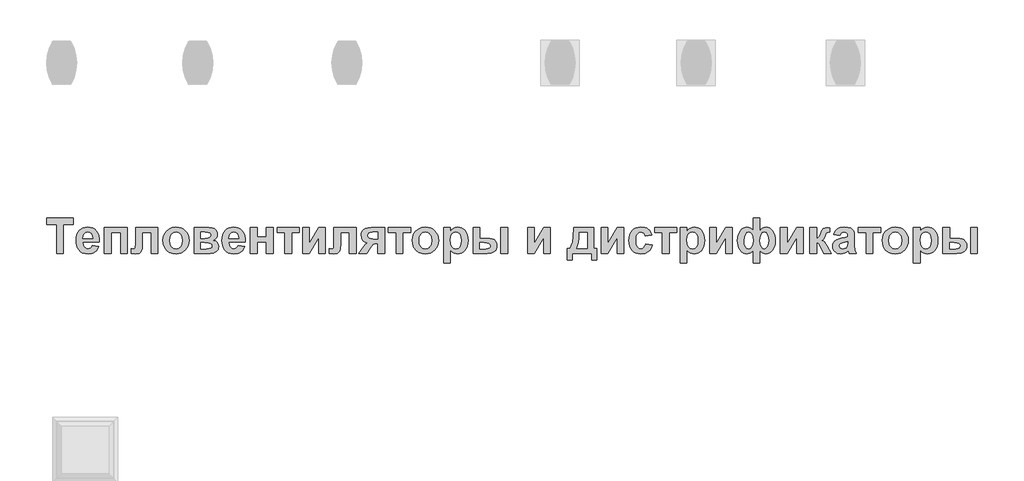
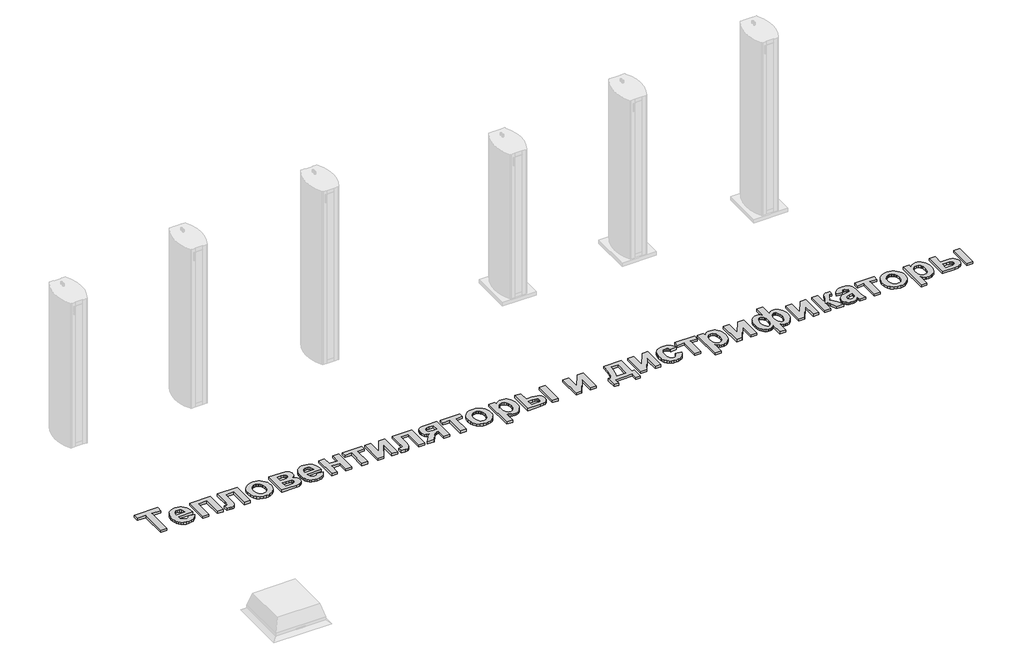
# One storey, part 3 of 8: 1 proxy.
"""IFC4 building model written with IfcOpenShell, lengths in millimetres."""

from ifc_helpers import new_model, si_unit, origin, origin_with_axes, place, context, project, spatial, polyline, outline, extrude, element, save

model = new_model("IFC4")

# Units and contexts
model_context = context("Model", 3, world=origin())
ifc_project = project(units=[si_unit("LENGTHUNIT", "METRE", prefix="MILLI")], contexts=[model_context])

# Site, building, storey
site = spatial("IfcSite", under=ifc_project)
building = spatial("IfcBuilding", under=site)
storey = spatial("IfcBuildingStorey", under=building, Name="Уровень 1", Elevation=0.0)

# Proxy
placement = place(None, origin())
element("IfcBuildingElementProxy", 1, Name="ИЗТТ_Текст1", ObjectType="ИЗТТ_Текст1", at=placement, inside=storey, context=model_context, shape_type="SweptSolid", body=[
    extrude(outline(polyline([(-15243.5561322, -488.9726704), (-15243.5561322, -152.1251225), (-15360.1572065, -152.1251225), (-15360.1572065, -80.8689104), (-15049.2210084, -80.8689104), (-15049.2210084, -152.1251225), (-15165.8220827, -152.1251225), (-15165.8220827, -488.9726704), (-15243.5561322, -488.9726704)])), origin_with_axes(), (0.0, 0.0, 1.0), 30.0),
    extrude(outline(polyline([(-14828.9745348, -398.2829459), (-14751.2404852, -411.2386209), (-14770.1679166, -447.5119802), (-14782.8199429, -461.9574312), (-14797.5975096, -473.9420631), (-14814.4310305, -483.3520077), (-14833.2509196, -490.0733967), (-14876.8498022, -495.4505078), (-14912.0540654, -492.2811753), (-14942.3619944, -482.7731775), (-14967.7735892, -466.9265146), (-14988.2888498, -444.7411865), (-15000.7763997, -423.1125475), (-15009.6960783, -398.814331), (-15015.0478854, -371.846537), (-15016.8318211, -342.2091654), (-15014.4658922, -307.2642688), (-15007.3681054, -276.3174125), (-14995.5384609, -249.3685965), (-14978.9769584, -226.4178208), (-14958.7969765, -208.0850347), (-14936.1118934, -194.9901875), (-14910.921709, -187.1332792), (-14883.2264235, -184.5143098), (-14852.4503695, -187.2028653), (-14825.1030147, -195.2685321), (-14801.184359, -208.71131), (-14780.6944024, -227.5311991), (-14764.3669625, -251.9053278), (-14752.9358568, -282.0108243), (-14746.4010852, -317.8476888), (-14744.7626478, -359.4159212), (-14939.0977716, -359.4159212), (-14934.1128732, -392.1593652), (-14920.7776375, -416.7042962), (-14901.1163887, -432.0385521), (-14877.1534509, -437.1499707), (-14860.832337, -434.8473019), (-14847.2946688, -427.9392956), (-14836.6416627, -415.9198706), (-14828.9745348, -398.2829459)]), holes=[polyline([(-14822.4966973, -314.071059), (-14827.2285551, -283.3392871), (-14839.8046693, -260.9831566), (-14858.0741952, -247.3569243), (-14879.8862886, -242.8148469), (-14902.9129764, -247.5973128), (-14921.5873672, -261.9447106), (-14933.8345286, -284.5918377), (-14937.7819609, -314.071059), (-14822.4966973, -314.071059)])]), origin_with_axes(), (0.0, 0.0, 1.0), 30.0),
    extrude(outline(polyline([(-14686.4621106, -190.9921472), (-14420.8707748, -190.9921472), (-14420.8707748, -488.9726704), (-14498.6048243, -488.9726704), (-14498.6048243, -249.2926844), (-14608.7280611, -249.2926844), (-14608.7280611, -488.9726704), (-14686.4621106, -488.9726704), (-14686.4621106, -190.9921472)])), origin_with_axes(), (0.0, 0.0, 1.0), 30.0),
    extrude(outline(polyline([(-14323.7032129, -190.9921472), (-14064.5897145, -190.9921472), (-14064.5897145, -488.9726704), (-14142.323764, -488.9726704), (-14142.323764, -249.2926844), (-14245.9691634, -249.2926844), (-14245.9691634, -387.1491628), (-14248.8285213, -431.8614237), (-14257.4065951, -460.9357801), (-14269.4513242, -478.5347487), (-14282.7106477, -488.8208461), (-14300.8030453, -493.7930924), (-14327.3469965, -495.4505078), (-14375.5259126, -490.693346), (-14375.5259126, -435.7329438), (-14363.1775349, -436.340241), (-14345.4646981, -437.1499707), (-14333.382013, -434.4677411), (-14327.0939559, -426.4210524), (-14323.7032129, -366.7034883), (-14323.7032129, -190.9921472)])), origin_with_axes(), (0.0, 0.0, 1.0), 30.0),
    extrude(outline(polyline([(-14006.2891773, -335.731328), (-14001.4940594, -297.1806039), (-13987.1087055, -259.8697783), (-13963.9428453, -227.5185471), (-13932.8062087, -203.8466059), (-13895.6345554, -189.3473838), (-13854.3636457, -184.5143098), (-13822.3761602, -187.2534734), (-13793.418835, -195.4709645), (-13767.4916702, -209.166783), (-13744.5946656, -228.3409288), (-13725.8854817, -251.7028954), (-13712.5217789, -277.9621759), (-13704.5035573, -307.1187705), (-13701.8308167, -339.1726791), (-13704.5320243, -371.4827912), (-13712.6356472, -400.9019154), (-13726.1416852, -427.4300515), (-13745.0501385, -451.0671996), (-13768.0515223, -470.484897), (-13793.8363519, -484.3546808), (-13822.4046273, -492.6765511), (-13853.7563484, -495.4505078), (-13893.3951468, -490.8325182), (-13931.1361412, -476.9785495), (-13963.5253285, -454.1922501), (-13987.1087055, -422.7772688), (-14001.4940594, -383.1511225), (-14006.2891773, -335.731328)]), holes=[polyline([(-13928.5551278, -339.9824088), (-13923.1780166, -381.5443152), (-13916.4566277, -398.1975448), (-13907.0466831, -412.0989586), (-13895.6630225, -423.0587764), (-13883.0204852, -430.8872177), (-13869.1190713, -435.5842824), (-13853.9587808, -437.1499707), (-13838.8048163, -435.5842824), (-13824.9223805, -430.8872177), (-13812.3114733, -423.0587764), (-13800.9720947, -412.0989586), (-13791.6064323, -398.1595887), (-13784.9166734, -381.3924908), (-13779.5648662, -339.3751115), (-13784.9166734, -298.2686781), (-13791.6064323, -281.7293168), (-13800.9720947, -267.8658589), (-13812.3114733, -256.9060412), (-13824.9223805, -249.0775999), (-13838.8048163, -244.3805351), (-13853.9587808, -242.8148469), (-13869.1190713, -244.3805351), (-13883.0204852, -249.0775999), (-13895.6630225, -256.9060412), (-13907.0466831, -267.8658589), (-13916.4566277, -281.7672728), (-13923.1780166, -298.4205024), (-13928.5551278, -339.9824088)])]), origin_with_axes(), (0.0, 0.0, 1.0), 30.0),
    extrude(outline(polyline([(-13643.5302796, -190.9921472), (-13474.9040732, -190.9921472), (-13429.5212549, -195.8758294), (-13411.7356689, -201.980432), (-13397.2206318, -210.5268758), (-13385.9508394, -221.5278127), (-13377.9009876, -234.9958946), (-13373.0710766, -250.9311218), (-13371.4611063, -269.333494), (-13375.0036736, -292.904219), (-13385.6313757, -313.2107212), (-13401.6235369, -328.7600615), (-13421.2594817, -338.0593008), (-13393.6148043, -348.8261752), (-13374.0421196, -366.1467992), (-13362.3896034, -387.718504), (-13358.5054313, -411.2386209), (-13360.0806086, -427.7305371), (-13364.8061404, -442.590342), (-13372.6820268, -455.8180355), (-13383.7082677, -467.4136176), (-13397.815277, -476.8457032), (-13414.9334686, -483.5829072), (-13458.2033985, -488.9726704), (-13643.5302796, -488.9726704), (-13643.5302796, -190.9921472)]), holes=[polyline([(-13565.7962301, -437.1499707), (-13502.1312338, -437.1499707), (-13472.4495801, -435.2395147), (-13452.0292097, -429.5081468), (-13440.1869131, -418.8171846), (-13436.2394809, -402.0279457), (-13440.7562542, -384.6693656), (-13454.3065744, -373.6874068), (-13480.8884816, -367.8421707), (-13524.5000162, -365.8937586), (-13565.7962301, -365.8937586), (-13565.7962301, -437.1499707)]), polyline([(-13565.7962301, -314.071059), (-13516.6051518, -314.071059), (-13485.9113361, -311.8189983), (-13465.0861008, -305.0628162), (-13453.167892, -293.4482561), (-13449.1951558, -276.6210611), (-13452.9021995, -261.0084607), (-13464.0233306, -250.6084951), (-13484.5828733, -244.7632589), (-13516.6051518, -242.8148469), (-13565.7962301, -242.8148469), (-13565.7962301, -314.071059)])]), origin_with_axes(), (0.0, 0.0, 1.0), 30.0),
    extrude(outline(polyline([(-13131.7811202, -398.2829459), (-13054.0470707, -411.2386209), (-13072.974502, -447.5119802), (-13085.6265283, -461.9574312), (-13100.404095, -473.9420631), (-13117.237616, -483.3520077), (-13136.0575051, -490.0733967), (-13179.6563877, -495.4505078), (-13214.8606509, -492.2811753), (-13245.1685798, -482.7731775), (-13270.5801746, -466.9265146), (-13291.0954353, -444.7411865), (-13303.5829852, -423.1125475), (-13312.5026637, -398.814331), (-13317.8544709, -371.846537), (-13319.6384066, -342.2091654), (-13317.2724777, -307.2642688), (-13310.1746909, -276.3174125), (-13298.3450463, -249.3685965), (-13281.7835439, -226.4178208), (-13261.603562, -208.0850347), (-13238.9184788, -194.9901875), (-13213.7282945, -187.1332792), (-13186.033009, -184.5143098), (-13155.256955, -187.2028653), (-13127.9096002, -195.2685321), (-13103.9909445, -208.71131), (-13083.5009879, -227.5311991), (-13067.173548, -251.9053278), (-13055.7424422, -282.0108243), (-13049.2076707, -317.8476888), (-13047.5692333, -359.4159212), (-13241.9043571, -359.4159212), (-13236.9194587, -392.1593652), (-13223.584223, -416.7042962), (-13203.9229741, -432.0385521), (-13179.9600363, -437.1499707), (-13163.6389224, -434.8473019), (-13150.1012543, -427.9392956), (-13139.4482482, -415.9198706), (-13131.7811202, -398.2829459)]), holes=[polyline([(-13125.3032828, -314.071059), (-13130.0351406, -283.3392871), (-13142.6112547, -260.9831566), (-13160.8807807, -247.3569243), (-13182.692874, -242.8148469), (-13205.7195619, -247.5973128), (-13224.3939527, -261.9447106), (-13236.6411141, -284.5918377), (-13240.5885463, -314.071059), (-13125.3032828, -314.071059)])]), origin_with_axes(), (0.0, 0.0, 1.0), 30.0),
    extrude(outline(polyline([(-12989.2686961, -190.9921472), (-12911.5346466, -190.9921472), (-12911.5346466, -301.115384), (-12801.4114098, -301.115384), (-12801.4114098, -190.9921472), (-12723.6773602, -190.9921472), (-12723.6773602, -488.9726704), (-12801.4114098, -488.9726704), (-12801.4114098, -359.4159212), (-12911.5346466, -359.4159212), (-12911.5346466, -488.9726704), (-12989.2686961, -488.9726704), (-12989.2686961, -190.9921472)])), origin_with_axes(), (0.0, 0.0, 1.0), 30.0),
    extrude(outline(polyline([(-12678.332498, -190.9921472), (-12419.2189996, -190.9921472), (-12419.2189996, -249.2926844), (-12509.9087241, -249.2926844), (-12509.9087241, -488.9726704), (-12587.6427736, -488.9726704), (-12587.6427736, -249.2926844), (-12678.332498, -249.2926844), (-12678.332498, -190.9921472)])), origin_with_axes(), (0.0, 0.0, 1.0), 30.0),
    extrude(outline(polyline([(-12380.3519749, -190.9921472), (-12302.6179253, -190.9921472), (-12302.6179253, -374.2947041), (-12192.4946885, -190.9921472), (-12114.760639, -190.9921472), (-12114.760639, -488.9726704), (-12192.4946885, -488.9726704), (-12192.4946885, -305.5688973), (-12302.6179253, -488.9726704), (-12380.3519749, -488.9726704), (-12380.3519749, -190.9921472)])), origin_with_axes(), (0.0, 0.0, 1.0), 30.0),
    extrude(outline(polyline([(-12017.5930771, -190.9921472), (-11758.4795787, -190.9921472), (-11758.4795787, -488.9726704), (-11836.2136282, -488.9726704), (-11836.2136282, -249.2926844), (-11939.8590276, -249.2926844), (-11939.8590276, -387.1491628), (-11942.7183855, -431.8614237), (-11951.2964593, -460.9357801), (-11963.3411884, -478.5347487), (-11976.6005119, -488.8208461), (-11994.6929095, -493.7930924), (-12021.2368607, -495.4505078), (-12069.4157768, -490.693346), (-12069.4157768, -435.7329438), (-12057.0673991, -436.340241), (-12039.3545623, -437.1499707), (-12027.2718772, -434.4677411), (-12020.9838202, -426.4210524), (-12017.5930771, -366.7034883), (-12017.5930771, -190.9921472)])), origin_with_axes(), (0.0, 0.0, 1.0), 30.0),
    extrude(outline(polyline([(-11428.1098682, -190.9921472), (-11428.1098682, -488.9726704), (-11505.8439178, -488.9726704), (-11505.8439178, -372.3715961), (-11513.1314849, -372.3715961), (-11535.0700985, -373.9277953), (-11550.2778341, -378.596393), (-11562.7780361, -388.2751931), (-11576.5940488, -404.8619996), (-11581.3512107, -410.4288912), (-11632.9714779, -488.9726704), (-11726.0903914, -488.9726704), (-11669.5105298, -407.4936211), (-11647.3188757, -379.4314268), (-11627.3033701, -366.5010559), (-11656.7193313, -358.9731003), (-11679.9864076, -340.4378817), (-11695.1308831, -313.0715489), (-11700.1790416, -279.0502502), (-11696.7756465, -251.1904883), (-11686.5654613, -227.7336316), (-11670.7124723, -209.8563184), (-11650.3806661, -198.7351873), (-11622.2931677, -192.9279072), (-11583.1731024, -190.9921472), (-11428.1098682, -190.9921472)]), holes=[polyline([(-11505.8439178, -242.8148469), (-11564.1444549, -242.8148469), (-11591.5487438, -245.0542555), (-11609.3881009, -251.7724815), (-11619.1807693, -263.7033423), (-11622.444992, -281.5806554), (-11618.7506004, -299.4200125), (-11607.6674253, -311.4394375), (-11588.1580008, -318.2715317), (-11559.1848606, -320.5488964), (-11505.8439178, -320.5488964), (-11505.8439178, -242.8148469)])]), origin_with_axes(), (0.0, 0.0, 1.0), 30.0),
    extrude(outline(polyline([(-11382.765006, -190.9921472), (-11123.6515076, -190.9921472), (-11123.6515076, -249.2926844), (-11214.3412321, -249.2926844), (-11214.3412321, -488.9726704), (-11292.0752816, -488.9726704), (-11292.0752816, -249.2926844), (-11382.765006, -249.2926844), (-11382.765006, -190.9921472)])), origin_with_axes(), (0.0, 0.0, 1.0), 30.0),
    extrude(outline(polyline([(-11104.2179952, -335.731328), (-11099.4228773, -297.1806039), (-11085.0375234, -259.8697783), (-11061.8716632, -227.5185471), (-11030.7350266, -203.8466059), (-10993.5633733, -189.3473838), (-10952.2924636, -184.5143098), (-10920.3049781, -187.2534734), (-10891.3476529, -195.4709645), (-10865.4204881, -209.166783), (-10842.5234835, -228.3409288), (-10823.8142996, -251.7028954), (-10810.4505968, -277.9621759), (-10802.4323752, -307.1187705), (-10799.7596346, -339.1726791), (-10802.4608422, -371.4827912), (-10810.5644651, -400.9019154), (-10824.0705031, -427.4300515), (-10842.9789564, -451.0671996), (-10865.9803402, -470.484897), (-10891.7651698, -484.3546808), (-10920.3334452, -492.6765511), (-10951.6851663, -495.4505078), (-10991.3239647, -490.8325182), (-11029.0649591, -476.9785495), (-11061.4541464, -454.1922501), (-11085.0375234, -422.7772688), (-11099.4228773, -383.1511225), (-11104.2179952, -335.731328)]), holes=[polyline([(-11026.4839457, -339.9824088), (-11021.1068345, -381.5443152), (-11014.3854456, -398.1975448), (-11004.975501, -412.0989586), (-10993.5918404, -423.0587764), (-10980.9493031, -430.8872177), (-10967.0478892, -435.5842824), (-10951.8875987, -437.1499707), (-10936.7336342, -435.5842824), (-10922.8511984, -430.8872177), (-10910.2402912, -423.0587764), (-10898.9009126, -412.0989586), (-10889.5352502, -398.1595887), (-10882.8454913, -381.3924908), (-10877.4936841, -339.3751115), (-10882.8454913, -298.2686781), (-10889.5352502, -281.7293168), (-10898.9009126, -267.8658589), (-10910.2402912, -256.9060412), (-10922.8511984, -249.0775999), (-10936.7336342, -244.3805351), (-10951.8875987, -242.8148469), (-10967.0478892, -244.3805351), (-10980.9493031, -249.0775999), (-10993.5918404, -256.9060412), (-11004.975501, -267.8658589), (-11014.3854456, -281.7672728), (-11021.1068345, -298.4205024), (-11026.4839457, -339.9824088)])]), origin_with_axes(), (0.0, 0.0, 1.0), 30.0),
    extrude(outline(polyline([(-10741.4590975, -190.9921472), (-10663.725048, -190.9921472), (-10663.725048, -233.9078204), (-10647.6569746, -213.9429229), (-10626.7811312, -198.1784981), (-10602.2108961, -187.9303569), (-10575.0596477, -184.5143098), (-10551.2453712, -187.054204), (-10529.2972686, -194.6738869), (-10509.2153399, -207.3733583), (-10490.9995851, -225.1526182), (-10475.8772506, -247.4613035), (-10465.0755832, -273.7490512), (-10458.5945827, -304.0158611), (-10456.4342492, -338.2617332), (-10458.6641689, -373.4786484), (-10465.3539278, -404.5330469), (-10476.5035259, -431.4249288), (-10492.1129634, -454.154294), (-10510.8980594, -472.2213876), (-10531.5746334, -485.1264544), (-10554.1426853, -492.8694945), (-10578.6022151, -495.4505078), (-10601.654207, -493.0466228), (-10622.4288341, -485.8349679), (-10642.57086, -472.7780767), (-10663.725048, -452.8384833), (-10663.725048, -599.0959072), (-10741.4590975, -599.0959072), (-10741.4590975, -190.9921472)]), holes=[polyline([(-10663.725048, -334.8203821), (-10658.8540178, -380.3170686), (-10652.7652302, -397.9413412), (-10644.2409275, -412.1495667), (-10622.6186145, -430.8998697), (-10610.2038137, -435.5874454), (-10596.7199167, -437.1499707), (-10572.1370296, -431.4186028), (-10552.0329599, -414.2244991), (-10544.2171706, -400.9240564), (-10538.634464, -383.9482002), (-10534.1682988, -338.9702467), (-10538.7609843, -296.4594384), (-10544.5018412, -279.910588), (-10552.5390409, -266.4994401), (-10573.1238877, -248.7359952), (-10598.1369437, -242.8148469), (-10623.9850334, -248.622127), (-10645.0506572, -266.0439672), (-10653.2207031, -279.0534132), (-10659.0564503, -294.852631), (-10663.725048, -334.8203821)])]), origin_with_axes(), (0.0, 0.0, 1.0), 30.0),
    extrude(outline(polyline([(-10398.1337121, -190.9921472), (-10320.3996626, -190.9921472), (-10320.3996626, -314.071059), (-10244.2850724, -314.071059), (-10204.7601423, -315.7284744), (-10175.8629142, -320.7007207), (-10154.088777, -331.2272066), (-10135.9331193, -349.5473407), (-10123.6733058, -373.750667), (-10119.5867013, -401.9267295), (-10121.3864521, -422.2870028), (-10126.7857043, -439.9460685), (-10135.784458, -454.9039266), (-10148.3827131, -467.1605771), (-10164.5804698, -476.7033679), (-10184.3777279, -483.519647), (-10234.7707486, -488.9726704), (-10398.1337121, -488.9726704), (-10398.1337121, -190.9921472)]), holes=[polyline([(-10320.3996626, -437.1499707), (-10249.7507478, -437.1499707), (-10225.9902424, -435.0370823), (-10209.7703447, -428.6984171), (-10200.4331493, -417.6025901), (-10197.3207508, -401.218216), (-10201.3440952, -384.1506326), (-10213.4141283, -373.4343663), (-10235.909431, -367.7789106), (-10271.2085844, -365.8937586), (-10320.3996626, -365.8937586), (-10320.3996626, -437.1499707)])]), origin_with_axes(), (0.0, 0.0, 1.0), 30.0),
    extrude(outline(polyline([(-10074.2418391, -190.9921472), (-9996.5077896, -190.9921472), (-9996.5077896, -488.9726704), (-10074.2418391, -488.9726704), (-10074.2418391, -190.9921472)])), origin_with_axes(), (0.0, 0.0, 1.0), 30.0),
    extrude(outline(polyline([(-9763.305641, -190.9921472), (-9685.5715915, -190.9921472), (-9685.5715915, -374.2947041), (-9575.4483547, -190.9921472), (-9497.7143051, -190.9921472), (-9497.7143051, -488.9726704), (-9575.4483547, -488.9726704), (-9575.4483547, -305.5688973), (-9685.5715915, -488.9726704), (-9763.305641, -488.9726704), (-9763.305641, -190.9921472)])), origin_with_axes(), (0.0, 0.0, 1.0), 30.0),
    extrude(outline(polyline([(-9018.3543331, -488.9726704), (-9245.0786442, -488.9726704), (-9245.0786442, -566.7067199), (-9303.3791813, -566.7067199), (-9303.3791813, -430.6721332), (-9270.989994, -430.6721332), (-9253.9730187, -401.1296519), (-9240.169658, -358.6567996), (-9230.4402498, -292.2716177), (-9225.6451318, -190.9921472), (-8992.4429833, -190.9921472), (-8992.4429833, -430.6721332), (-8960.053796, -430.6721332), (-8960.053796, -566.7067199), (-9018.3543331, -566.7067199), (-9018.3543331, -488.9726704)]), holes=[polyline([(-9070.1770328, -430.6721332), (-9070.1770328, -249.2926844), (-9160.8667572, -249.2926844), (-9164.3713685, -310.4272754), (-9170.9377702, -361.0353805), (-9180.5659622, -401.1169998), (-9193.2559445, -430.6721332), (-9070.1770328, -430.6721332)])]), origin_with_axes(), (0.0, 0.0, 1.0), 30.0),
    extrude(outline(polyline([(-8908.2310963, -190.9921472), (-8830.4970468, -190.9921472), (-8830.4970468, -374.2947041), (-8720.3738099, -190.9921472), (-8642.6397604, -190.9921472), (-8642.6397604, -488.9726704), (-8720.3738099, -488.9726704), (-8720.3738099, -305.5688973), (-8830.4970468, -488.9726704), (-8908.2310963, -488.9726704), (-8908.2310963, -190.9921472)])), origin_with_axes(), (0.0, 0.0, 1.0), 30.0),
    extrude(outline(polyline([(-8318.7478874, -275.2040342), (-8396.4819369, -288.1597091), (-8402.4410413, -268.384592), (-8413.0307873, -254.2016706), (-8427.8716142, -245.6615528), (-8446.583961, -242.8148469), (-8471.2301083, -248.154002), (-8490.3093639, -264.1714673), (-8497.4387807, -276.6400392), (-8502.5312213, -292.6891345), (-8506.6051738, -335.5288955), (-8502.366745, -383.0246022), (-8497.0687089, -400.6425488), (-8489.6514585, -414.173891), (-8469.8004293, -431.4059508), (-8444.154772, -437.1499707), (-8424.7339116, -433.8730959), (-8409.1845713, -424.0424715), (-8397.5826632, -406.1904624), (-8390.0040995, -378.8494336), (-8312.27005, -391.8051085), (-8319.4342598, -415.8914035), (-8329.2870253, -436.83367), (-8341.8283464, -454.631908), (-8357.058223, -469.2861175), (-8375.0399154, -480.7330383), (-8395.8366836, -488.9094102), (-8419.4485277, -493.8152334), (-8445.8754476, -495.4505078), (-8475.901869, -492.8758205), (-8502.7210017, -485.1517584), (-8526.3328458, -472.2783217), (-8546.7374012, -454.2555102), (-8563.1881983, -431.6842953), (-8574.9387677, -405.1656482), (-8581.9891094, -374.6995689), (-8584.3392233, -340.2860574), (-8582.0049244, -305.4834961), (-8575.0020279, -274.7612133), (-8563.3305336, -248.1192089), (-8546.9904417, -225.557483), (-8526.6649614, -207.6010947), (-8503.0373023, -194.7751031), (-8476.1074644, -187.0795081), (-8445.8754476, -184.5143098), (-8399.0882544, -190.1191574), (-8379.6990241, -197.125217), (-8362.9793713, -206.9337003), (-8348.6762556, -219.6078677), (-8336.5366364, -235.2109791), (-8318.7478874, -275.2040342)])), origin_with_axes(), (0.0, 0.0, 1.0), 30.0),
    extrude(outline(polyline([(-8286.3587001, -190.9921472), (-8027.2452017, -190.9921472), (-8027.2452017, -249.2926844), (-8117.9349262, -249.2926844), (-8117.9349262, -488.9726704), (-8195.6689757, -488.9726704), (-8195.6689757, -249.2926844), (-8286.3587001, -249.2926844), (-8286.3587001, -190.9921472)])), origin_with_axes(), (0.0, 0.0, 1.0), 30.0),
    extrude(outline(polyline([(-7988.378177, -190.9921472), (-7910.6441274, -190.9921472), (-7910.6441274, -233.9078204), (-7894.576054, -213.9429229), (-7873.7002107, -198.1784981), (-7849.1299756, -187.9303569), (-7821.9787272, -184.5143098), (-7798.1644507, -187.054204), (-7776.2163481, -194.6738869), (-7756.1344194, -207.3733583), (-7737.9186645, -225.1526182), (-7722.7963301, -247.4613035), (-7711.9946627, -273.7490512), (-7705.5136622, -304.0158611), (-7703.3533287, -338.2617332), (-7705.5832483, -373.4786484), (-7712.2730072, -404.5330469), (-7723.4226054, -431.4249288), (-7739.0320429, -454.154294), (-7757.8171389, -472.2213876), (-7778.4937128, -485.1264544), (-7801.0617647, -492.8694945), (-7825.5212946, -495.4505078), (-7848.5732865, -493.0466228), (-7869.3479136, -485.8349679), (-7889.4899395, -472.7780767), (-7910.6441274, -452.8384833), (-7910.6441274, -599.0959072), (-7988.378177, -599.0959072), (-7988.378177, -190.9921472)]), holes=[polyline([(-7910.6441274, -334.8203821), (-7905.7730973, -380.3170686), (-7899.6843097, -397.9413412), (-7891.160007, -412.1495667), (-7869.537694, -430.8998697), (-7857.1228932, -435.5874454), (-7843.6389962, -437.1499707), (-7819.0561091, -431.4186028), (-7798.9520394, -414.2244991), (-7791.1362501, -400.9240564), (-7785.5535435, -383.9482002), (-7781.0873782, -338.9702467), (-7785.6800638, -296.4594384), (-7791.4209207, -279.910588), (-7799.4581204, -266.4994401), (-7820.0429672, -248.7359952), (-7845.0560232, -242.8148469), (-7870.9041129, -248.622127), (-7891.9697366, -266.0439672), (-7900.1397826, -279.0534132), (-7905.9755297, -294.852631), (-7910.6441274, -334.8203821)])]), origin_with_axes(), (0.0, 0.0, 1.0), 30.0),
    extrude(outline(polyline([(-7645.0527916, -190.9921472), (-7567.3187421, -190.9921472), (-7567.3187421, -374.2947041), (-7457.1955052, -190.9921472), (-7379.4614557, -190.9921472), (-7379.4614557, -488.9726704), (-7457.1955052, -488.9726704), (-7457.1955052, -305.5688973), (-7567.3187421, -488.9726704), (-7645.0527916, -488.9726704), (-7645.0527916, -190.9921472)])), origin_with_axes(), (0.0, 0.0, 1.0), 30.0),
    extrude(outline(polyline([(-7139.7814697, -80.8689104), (-7062.0474202, -80.8689104), (-7062.0474202, -228.3409288), (-7046.9282488, -209.1351529), (-7029.1015437, -195.4456605), (-7008.5926091, -187.2471474), (-6985.426749, -184.5143098), (-6963.4027342, -187.4147868), (-6943.4852818, -196.1162179), (-6925.6743918, -210.618603), (-6909.9700642, -230.9219422), (-6897.1503985, -255.2549517), (-6887.9934945, -281.846348), (-6882.4993521, -310.6961309), (-6880.6679713, -341.8043006), (-6882.7175995, -372.9219592), (-6888.8664843, -401.4965606), (-6899.1146256, -427.5281047), (-6913.4620234, -451.0165915), (-6930.6118451, -470.4564299), (-6949.2672578, -484.3420288), (-6969.4282617, -492.6733881), (-6991.0948567, -495.4505078), (-7010.7308015, -492.8694945), (-7029.1521518, -485.1264544), (-7046.2829954, -472.2972997), (-7062.0474202, -454.4579427), (-7062.0474202, -599.0959072), (-7139.7814697, -599.0959072), (-7139.7814697, -454.4579427), (-7156.760489, -472.2972997), (-7174.9034947, -485.1264544), (-7194.1851827, -492.8694945), (-7214.5802491, -495.4505078), (-7236.7023171, -492.6670621), (-7256.8127129, -484.3167247), (-7274.9114365, -470.3994958), (-7290.9984879, -450.9153753), (-7304.1945513, -427.211804), (-7313.6203109, -400.6362228), (-7319.2757667, -371.1886316), (-7321.1609186, -338.8690305), (-7319.0069111, -306.8246109), (-7312.5448887, -277.6964834), (-7301.7748513, -251.4846479), (-7286.696799, -228.1891045), (-7269.1136454, -209.0813818), (-7250.8283044, -195.4330084), (-7231.840776, -187.2439844), (-7212.1510601, -184.5143098), (-7191.3258248, -187.1332792), (-7172.3730894, -194.9901875), (-7155.2169418, -208.0850347), (-7139.7814697, -226.4178208), (-7139.7814697, -80.8689104)]), holes=[polyline([(-7191.0980883, -242.8148469), (-7201.2450134, -244.4849144), (-7210.7340331, -249.4951168), (-7227.7383565, -269.5359264), (-7239.5047409, -300.5080868), (-7243.4268691, -339.9824088), (-7239.7704335, -379.6465112), (-7228.8011267, -410.5807155), (-7212.3914486, -430.5076569), (-7202.8486577, -435.4893922), (-7192.4138991, -437.1499707), (-7181.805175, -435.4893922), (-7172.0441367, -430.5076569), (-7155.0651174, -410.5807155), (-7143.6023816, -379.1404302), (-7139.7814697, -337.9580846), (-7143.9439863, -294.8146749), (-7149.1471322, -278.3860188), (-7156.4315363, -265.3860618), (-7173.4232076, -248.4576506), (-7191.0980883, -242.8148469)]), polyline([(-7010.1235043, -242.8148469), (-7021.080159, -244.6114346), (-7030.9740436, -250.0011978), (-7047.5735021, -271.5602506), (-7058.4289407, -303.8988298), (-7062.0474202, -343.4237599), (-7058.2012042, -382.0883523), (-7046.6625562, -411.8459181), (-7029.8353612, -430.8239576), (-7020.3400155, -435.5684674), (-7010.1235043, -437.1499707), (-6999.9133191, -435.362872), (-6990.4369514, -430.0015758), (-6973.6856686, -408.5563913), (-6962.2229327, -377.3944505), (-6958.4020208, -341.0957871), (-6961.881328, -302.9372758), (-6972.3192497, -271.256602), (-6988.7289278, -249.9252857), (-6998.8031038, -244.5924566), (-7010.1235043, -242.8148469)])]), origin_with_axes(), (0.0, 0.0, 1.0), 30.0),
    extrude(outline(polyline([(-6822.3674341, -190.9921472), (-6744.6333846, -190.9921472), (-6744.6333846, -374.2947041), (-6634.5101478, -190.9921472), (-6556.7760983, -190.9921472), (-6556.7760983, -488.9726704), (-6634.5101478, -488.9726704), (-6634.5101478, -305.5688973), (-6744.6333846, -488.9726704), (-6822.3674341, -488.9726704), (-6822.3674341, -190.9921472)])), origin_with_axes(), (0.0, 0.0, 1.0), 30.0),
    extrude(outline(polyline([(-6479.0420488, -190.9921472), (-6401.3079992, -190.9921472), (-6401.3079992, -314.071059), (-6384.8983211, -309.9591504), (-6374.1314468, -302.076938), (-6365.3382885, -286.5275977), (-6354.8497587, -259.4143054), (-6339.3636785, -223.4572467), (-6322.4605714, -203.2393087), (-6302.1161131, -194.0539376), (-6276.3059795, -190.9921472), (-6245.8399002, -192.3079579), (-6245.5362516, -242.8148469), (-6270.4860474, -244.33309), (-6284.4032763, -248.8878195), (-6293.2596947, -261.4386296), (-6302.8246266, -286.5402497), (-6319.1457405, -320.7260248), (-6329.5267281, -331.7269616), (-6341.3880027, -338.6665981), (-6323.725774, -346.4918763), (-6307.4805723, -359.7448739), (-6292.6523975, -378.4255907), (-6279.2412496, -402.5340268), (-6276.2047633, -408.3033508), (-6232.8842253, -488.9726704), (-6320.2338148, -488.9726704), (-6357.0765153, -405.5705131), (-6367.6536093, -384.7958859), (-6376.7124601, -373.0801096), (-6387.0112095, -367.6903464), (-6401.3079992, -365.8937586), (-6401.3079992, -488.9726704), (-6479.0420488, -488.9726704), (-6479.0420488, -190.9921472)])), origin_with_axes(), (0.0, 0.0, 1.0), 30.0),
    extrude(outline(polyline([(-6129.2388259, -281.6818717), (-6200.495038, -268.7261967), (-6185.0469139, -231.3774151), (-6174.2389204, -216.878193), (-6161.3749727, -205.1624167), (-6145.8034913, -196.1288699), (-6126.872897, -189.6763365), (-6078.9343694, -184.5143098), (-6035.5885273, -187.6393602), (-6004.9453197, -197.0145117), (-5984.2466047, -211.1847812), (-5970.7342406, -228.6951856), (-5963.2948491, -255.9096941), (-5960.815052, -299.192276), (-5960.815052, -391.096595), (-5956.7157954, -448.9922673), (-5941.3815396, -488.9726704), (-6019.1155891, -488.9726704), (-6026.4031562, -464.2759151), (-6029.1359939, -454.4579427), (-6049.2527157, -472.3605599), (-6070.7358564, -485.1770625), (-6093.6360239, -492.8821465), (-6118.0038266, -495.4505078), (-6138.9967012, -493.8911456), (-6157.6426249, -489.2130589), (-6173.9415978, -481.4162477), (-6187.8936198, -470.500712), (-6199.074848, -457.2065954), (-6207.0614396, -442.2740413), (-6211.8533946, -425.7030499), (-6213.4507129, -407.4936211), (-6210.604007, -383.6572035), (-6202.0638892, -362.5536237), (-6188.3870488, -345.1191315), (-6170.1301749, -332.2899768), (-6145.0538588, -322.4467004), (-6110.9186919, -313.9698427), (-6066.712512, -303.974742), (-6038.5491015, -294.6375466), (-6038.5491015, -286.4390335), (-6040.9656385, -266.2463996), (-6048.2152496, -252.8352517), (-6062.1451305, -245.3199481), (-6084.6024772, -242.8148469), (-6100.7211587, -244.9656914), (-6112.8417999, -251.4182248), (-6122.0018669, -263.2858254), (-6129.2388259, -281.6818717)]), holes=[polyline([(-6038.5491015, -352.9380837), (-6082.3757205, -363.7176101), (-6121.6476102, -376.0153797), (-6132.1994001, -387.0732506), (-6135.7166634, -400.8133512), (-6132.8952615, -414.5914078), (-6124.4310559, -426.3704443), (-6111.6145533, -434.4550891), (-6095.7362603, -437.1499707), (-6076.6823087, -434.0122682), (-6058.5899111, -424.5991606), (-6047.7091685, -414.0220666), (-6041.3831554, -401.3194322), (-6038.5491015, -367.0071369), (-6038.5491015, -352.9380837)])]), origin_with_axes(), (0.0, 0.0, 1.0), 30.0),
    extrude(outline(polyline([(-5915.4701897, -190.9921472), (-5656.3566913, -190.9921472), (-5656.3566913, -249.2926844), (-5747.0464158, -249.2926844), (-5747.0464158, -488.9726704), (-5824.7804653, -488.9726704), (-5824.7804653, -249.2926844), (-5915.4701897, -249.2926844), (-5915.4701897, -190.9921472)])), origin_with_axes(), (0.0, 0.0, 1.0), 30.0),
    extrude(outline(polyline([(-5636.923179, -335.731328), (-5632.128061, -297.1806039), (-5617.7427071, -259.8697783), (-5594.576847, -227.5185471), (-5563.4402103, -203.8466059), (-5526.268557, -189.3473838), (-5484.9976473, -184.5143098), (-5453.0101618, -187.2534734), (-5424.0528366, -195.4709645), (-5398.1256718, -209.166783), (-5375.2286672, -228.3409288), (-5356.5194833, -251.7028954), (-5343.1557806, -277.9621759), (-5335.1375589, -307.1187705), (-5332.4648183, -339.1726791), (-5335.166026, -371.4827912), (-5343.2696488, -400.9019154), (-5356.7756869, -427.4300515), (-5375.6841401, -451.0671996), (-5398.6855239, -470.484897), (-5424.4703535, -484.3546808), (-5453.0386289, -492.6765511), (-5484.39035, -495.4505078), (-5524.0291484, -490.8325182), (-5561.7701428, -476.9785495), (-5594.1593301, -454.1922501), (-5617.7427071, -422.7772688), (-5632.128061, -383.1511225), (-5636.923179, -335.731328)]), holes=[polyline([(-5559.1891294, -339.9824088), (-5553.8120183, -381.5443152), (-5547.0906293, -398.1975448), (-5537.6806847, -412.0989586), (-5526.2970241, -423.0587764), (-5513.6544868, -430.8872177), (-5499.7530729, -435.5842824), (-5484.5927824, -437.1499707), (-5469.438818, -435.5842824), (-5455.5563821, -430.8872177), (-5442.9454749, -423.0587764), (-5431.6060963, -412.0989586), (-5422.2404339, -398.1595887), (-5415.550675, -381.3924908), (-5410.1988679, -339.3751115), (-5415.550675, -298.2686781), (-5422.2404339, -281.7293168), (-5431.6060963, -267.8658589), (-5442.9454749, -256.9060412), (-5455.5563821, -249.0775999), (-5469.438818, -244.3805351), (-5484.5927824, -242.8148469), (-5499.7530729, -244.3805351), (-5513.6544868, -249.0775999), (-5526.2970241, -256.9060412), (-5537.6806847, -267.8658589), (-5547.0906293, -281.7672728), (-5553.8120183, -298.4205024), (-5559.1891294, -339.9824088)])]), origin_with_axes(), (0.0, 0.0, 1.0), 30.0),
    extrude(outline(polyline([(-5274.1642812, -190.9921472), (-5196.4302317, -190.9921472), (-5196.4302317, -233.9078204), (-5180.3621583, -213.9429229), (-5159.4863149, -198.1784981), (-5134.9160799, -187.9303569), (-5107.7648314, -184.5143098), (-5083.950555, -187.054204), (-5062.0024524, -194.6738869), (-5041.9205236, -207.3733583), (-5023.7047688, -225.1526182), (-5008.5824344, -247.4613035), (-4997.7807669, -273.7490512), (-4991.2997664, -304.0158611), (-4989.139433, -338.2617332), (-4991.3693526, -373.4786484), (-4998.0591115, -404.5330469), (-5009.2087097, -431.4249288), (-5024.8181471, -454.154294), (-5043.6032431, -472.2213876), (-5064.2798171, -485.1264544), (-5086.847869, -492.8694945), (-5111.3073988, -495.4505078), (-5134.3593907, -493.0466228), (-5155.1340179, -485.8349679), (-5175.2760437, -472.7780767), (-5196.4302317, -452.8384833), (-5196.4302317, -599.0959072), (-5274.1642812, -599.0959072), (-5274.1642812, -190.9921472)]), holes=[polyline([(-5196.4302317, -334.8203821), (-5191.5592016, -380.3170686), (-5185.4704139, -397.9413412), (-5176.9461112, -412.1495667), (-5155.3237983, -430.8998697), (-5142.9089975, -435.5874454), (-5129.4251005, -437.1499707), (-5104.8422134, -431.4186028), (-5084.7381436, -414.2244991), (-5076.9223544, -400.9240564), (-5071.3396478, -383.9482002), (-5066.8734825, -338.9702467), (-5071.466168, -296.4594384), (-5077.2070249, -279.910588), (-5085.2442246, -266.4994401), (-5105.8290714, -248.7359952), (-5130.8421274, -242.8148469), (-5156.6902171, -248.622127), (-5177.7558409, -266.0439672), (-5185.9258869, -279.0534132), (-5191.761634, -294.852631), (-5196.4302317, -334.8203821)])]), origin_with_axes(), (0.0, 0.0, 1.0), 30.0),
    extrude(outline(polyline([(-4930.8388958, -190.9921472), (-4853.1048463, -190.9921472), (-4853.1048463, -314.071059), (-4776.9902561, -314.071059), (-4737.465326, -315.7284744), (-4708.568098, -320.7007207), (-4686.7939607, -331.2272066), (-4668.638303, -349.5473407), (-4656.3784895, -373.750667), (-4652.291885, -401.9267295), (-4654.0916358, -422.2870028), (-4659.490888, -439.9460685), (-4668.4896417, -454.9039266), (-4681.0878969, -467.1605771), (-4697.2856535, -476.7033679), (-4717.0829117, -483.519647), (-4767.4759324, -488.9726704), (-4930.8388958, -488.9726704), (-4930.8388958, -190.9921472)]), holes=[polyline([(-4853.1048463, -437.1499707), (-4782.4559315, -437.1499707), (-4758.6954261, -435.0370823), (-4742.4755284, -428.6984171), (-4733.138333, -417.6025901), (-4730.0259346, -401.218216), (-4734.0492789, -384.1506326), (-4746.119312, -373.4343663), (-4768.6146147, -367.7789106), (-4803.9137681, -365.8937586), (-4853.1048463, -365.8937586), (-4853.1048463, -437.1499707)])]), origin_with_axes(), (0.0, 0.0, 1.0), 30.0),
    extrude(outline(polyline([(-4606.9470228, -190.9921472), (-4529.2129733, -190.9921472), (-4529.2129733, -488.9726704), (-4606.9470228, -488.9726704), (-4606.9470228, -190.9921472)])), origin_with_axes(), (0.0, 0.0, 1.0), 30.0),
])

save(model, "model.ifc")
